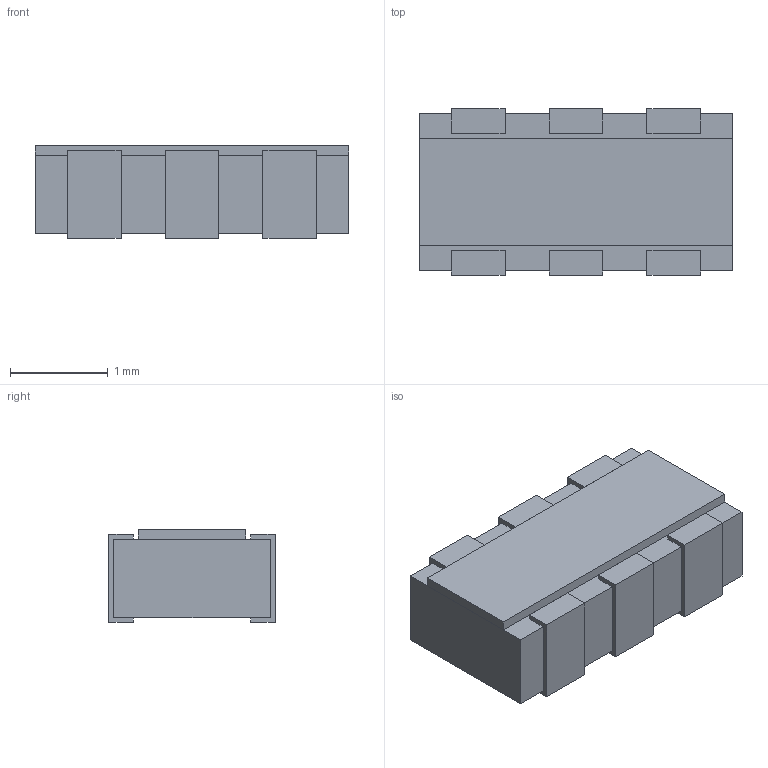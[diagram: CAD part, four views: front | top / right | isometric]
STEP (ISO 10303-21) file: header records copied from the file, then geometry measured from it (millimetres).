
FILE_DESCRIPTION (( 'STEP AP214' ), '1' );
FILE_NAME ( 'ICCAF6P100_320X160X95L25X55.STEP', '2021-10-06T06:48:59', ( '' ), ( '' ), '', '©2017 PCB Libraries, Inc.', '' );
FILE_SCHEMA (( 'AUTOMOTIVE_DESIGN' ));
Length unit declared in the file: millimetre
Products named in the file (1): ICCAF6P100_320X160X95L25X55
Bounding box: 3.2 x 1.7 x 0.95 mm (x, y, z)
Volume: 4.7 mm3; surface area: 35.5 mm2
Topology: 8 solids, 8 shells, 72 faces, 168 edges, 112 vertices
Faces by surface type: plane 72
Entity records: 2309 total; most frequent: CARTESIAN_POINT 353, ORIENTED_EDGE 336, DIRECTION 314, VECTOR 168, LINE 168, EDGE_CURVE 168, VERTEX_POINT 112, STYLED_ITEM 81
